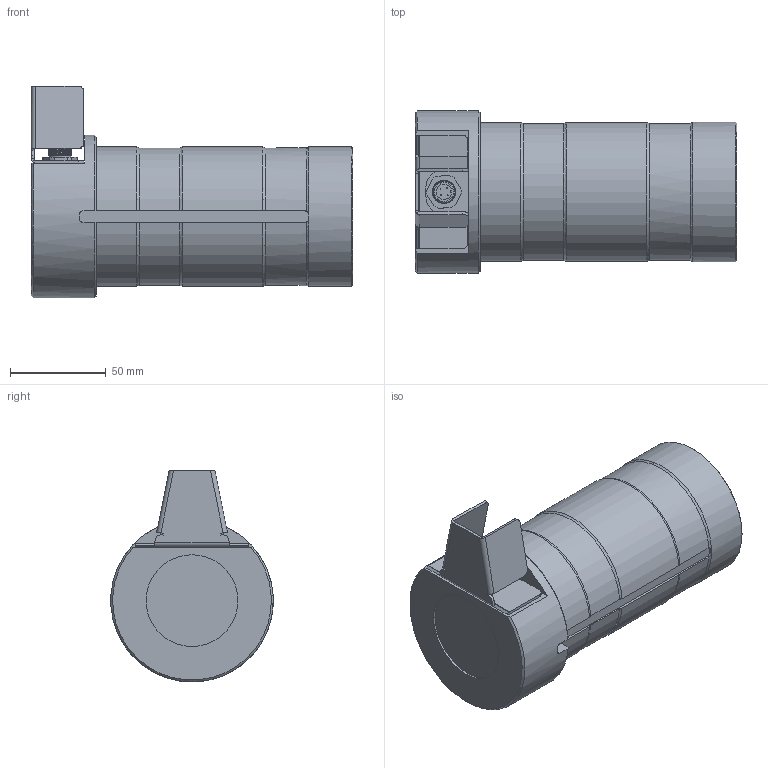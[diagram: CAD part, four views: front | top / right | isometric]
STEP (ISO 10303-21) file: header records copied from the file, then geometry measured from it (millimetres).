
FILE_DESCRIPTION(/* description */ ('Alibre Inc.'),/* implementation_level */ '2;1');
FILE_NAME(/* name */ 'export0',/* time_stamp */ '2013-11-28T11:35:19+01:00',/* author */ (''),/* organization */ (''),/* preprocessor_version */ 'ST-DEVELOPER v14',/* originating_system */ 'Alibre',/* authorisation */ '');
FILE_SCHEMA (('CONFIG_CONTROL_DESIGN'));
Length unit declared in the file: centimetre
Products named in the file (7): ID_1; ID_2; ID_3
Bounding box: 168 x 85 x 110.79 mm (x, y, z)
Volume: 727280.8 mm3; surface area: 65947.5 mm2
Topology: 9 solids, 9 shells, 213 faces, 514 edges, 325 vertices
Faces by surface type: plane 89, cylinder 76, bspline 27, cone 12, torus 9
Full cylindrical faces by diameter (mm): 0.5 x8, 8 x2, 8.376 x4, 10 x4, 11.5 x1, 13 x1, 14.376 x1, 48 x1, 73 x1, 85 x1
Entity records: 16676 total; most frequent: CARTESIAN_POINT 11780, ORIENTED_EDGE 940, DIRECTION 673, EDGE_CURVE 465, VERTEX_POINT 315, AXIS2_PLACEMENT_3D 277, FACE_BOUND 265, EDGE_LOOP 260
